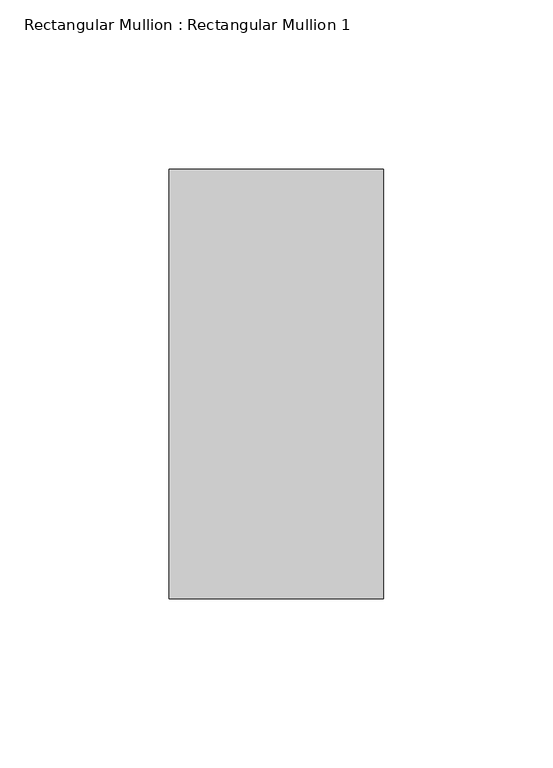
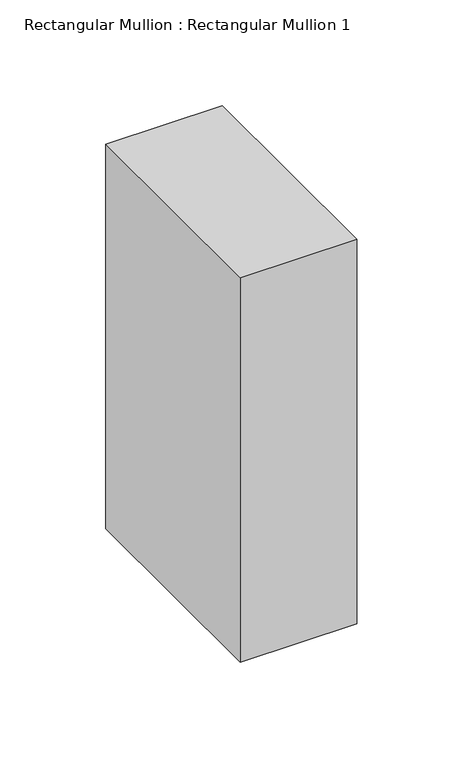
"""IFC4 building model written with IfcOpenShell, lengths in millimetres: member geometry, Rectangular Mullion : Rectangular Mullion 1."""

import ifcopenshell
import ifcopenshell.guid

model = None  # the IFC model being written
_history = None  # IfcOwnerHistory: only IFC2X3 demands one
_inside = {}  # id of a spatial element -> (the spatial element, [elements in it])
_under = {}  # id of a project, library or spatial element -> (it, [spatial elements below it])
_declared = {}  # id of a project -> (the project, [libraries it declares])
_typed = {}  # id of a type object -> (the type object, [elements of that type])
_made_of = {}  # id of a material, layer set ... -> (it, [elements and type objects made of it])


def new_model(schema):
    """Start an empty IFC model of exactly this schema.

    Asked for "IFC4X3", IfcOpenShell would pick the latest addendum, in which some entities
    have other attributes; the version numbers below select the first issue.
    IFC2X3 requires an IfcOwnerHistory on every rooted entity: one is made here for all.
    """
    global model, _history
    if schema == "IFC4X3":
        model = ifcopenshell.file(schema_version=(4, 3, 0, 0))
    else:
        model = ifcopenshell.file(schema=schema)
    _inside.clear()
    _under.clear()
    _declared.clear()
    _typed.clear()
    _made_of.clear()
    _history = None
    if model.schema == "IFC2X3":
        org = make("IfcOrganization", Name="unknown")
        user = make(
            "IfcPersonAndOrganization",
            ThePerson=make("IfcPerson", FamilyName="unknown"),
            TheOrganization=org,
        )
        app = make(
            "IfcApplication",
            ApplicationDeveloper=org,
            Version="unknown",
            ApplicationFullName="unknown",
            ApplicationIdentifier="unknown",
        )
        _history = make(
            "IfcOwnerHistory",
            OwningUser=user,
            OwningApplication=app,
            ChangeAction="ADDED",
            CreationDate=0,
        )
    return model


def make(cls, **values):
    """One entity of the class cls with the attributes given. An attribute that is None is left unset."""
    return model.create_entity(
        cls, **{name: value for name, value in values.items() if value is not None}
    )


def rooted(cls, **values):
    """An entity with a GlobalId (a new one), such as an element, a storey or a relation."""
    return make(cls, GlobalId=ifcopenshell.guid.new(), OwnerHistory=_history, **values)


def si_unit(unit_type, name, prefix=None):
    """IfcSIUnit, for example si_unit("LENGTHUNIT", "METRE", prefix="MILLI")."""
    return make("IfcSIUnit", UnitType=unit_type, Prefix=prefix, Name=name)


def assignment(units):
    """IfcUnitAssignment: the units of a project."""
    return None if units is None else make("IfcUnitAssignment", Units=units)


def point(xyz):
    """IfcCartesianPoint."""
    return None if xyz is None else make("IfcCartesianPoint", Coordinates=xyz)


def direction(xyz):
    """IfcDirection."""
    return None if xyz is None else make("IfcDirection", DirectionRatios=xyz)


def frame(location, z_axis=None, x_axis=None):
    """IfcAxis2Placement3D, a coordinate frame: its origin and axes. An axis left out is left unset."""
    return make(
        "IfcAxis2Placement3D",
        Location=point(location),
        Axis=direction(z_axis),
        RefDirection=direction(x_axis),
    )


def origin():
    """The frame at (0, 0, 0) with its axes left unset."""
    return frame((0.0, 0.0, 0.0))


def place(relative_to, where):
    """IfcLocalPlacement: puts the frame where relative to a parent placement (None: the world)."""
    return make(
        "IfcLocalPlacement", PlacementRelTo=relative_to, RelativePlacement=where
    )


def context(
    kind, dimensions, precision=None, world=None, true_north=None, identifier=None
):
    """IfcGeometricRepresentationContext, for example the 3D "Model" context."""
    return make(
        "IfcGeometricRepresentationContext",
        ContextIdentifier=identifier,
        ContextType=kind,
        CoordinateSpaceDimension=dimensions,
        Precision=precision,
        WorldCoordinateSystem=world,
        TrueNorth=true_north,
    )


def project(units=None, contexts=None):
    """IfcProject with its units and contexts."""
    return rooted(
        "IfcProject",
        Name="project",
        RepresentationContexts=contexts,
        UnitsInContext=assignment(units),
    )


def spatial(cls, under=None, at=None, **own):
    """A site, building, storey or space (cls), placed at a placement, below another one or the project."""
    s = rooted(cls, ObjectPlacement=at, **own)
    if under is not None:
        _under.setdefault(under.id(), (under, []))[1].append(s)
    return s


def polyline(points):
    """IfcPolyline through the points."""
    return make("IfcPolyline", Points=[point(p) for p in points])


def outline(outer, holes=None, kind="AREA"):
    """IfcArbitraryClosedProfileDef: a profile drawn as a closed curve; with holes, ...WithVoids."""
    if holes is None:
        return make("IfcArbitraryClosedProfileDef", ProfileType=kind, OuterCurve=outer)
    return make(
        "IfcArbitraryProfileDefWithVoids",
        ProfileType=kind,
        OuterCurve=outer,
        InnerCurves=holes,
    )


def extrude(swept, where, along, depth):
    """IfcExtrudedAreaSolid: the profile swept, set in the frame where, extruded along a direction by depth."""
    return make(
        "IfcExtrudedAreaSolid",
        SweptArea=swept,
        Position=where,
        ExtrudedDirection=direction(along),
        Depth=depth,
    )


def shape(context_of_items, identifier, shape_type, items):
    """IfcShapeRepresentation: the items that make up one representation, for example the "Body"."""
    return make(
        "IfcShapeRepresentation",
        ContextOfItems=context_of_items,
        RepresentationIdentifier=identifier,
        RepresentationType=shape_type,
        Items=items,
    )


def source(mapping_origin, context_of_items, identifier, shape_type, items):
    """IfcRepresentationMap: a shape defined once, which mapped items show again and again."""
    return make(
        "IfcRepresentationMap",
        MappingOrigin=mapping_origin,
        MappedRepresentation=shape(context_of_items, identifier, shape_type, items),
    )


def transform(
    local_origin,
    x_axis=None,
    y_axis=None,
    z_axis=None,
    scale=None,
    scale2=None,
    scale3=None,
    uniform=True,
):
    """IfcCartesianTransformationOperator3D, or its non-uniform kind. x_axis, y_axis, z_axis: its Axis1, 2, 3."""
    if uniform:
        return make(
            "IfcCartesianTransformationOperator3D",
            Axis1=direction(x_axis),
            Axis2=direction(y_axis),
            LocalOrigin=point(local_origin),
            Scale=scale,
            Axis3=direction(z_axis),
        )
    return make(
        "IfcCartesianTransformationOperator3DnonUniform",
        Axis1=direction(x_axis),
        Axis2=direction(y_axis),
        LocalOrigin=point(local_origin),
        Scale=scale,
        Axis3=direction(z_axis),
        Scale2=scale2,
        Scale3=scale3,
    )


def mapped(mapping_source, mapping_target):
    """IfcMappedItem: shows the shape of a source again, moved by a transform."""
    return make(
        "IfcMappedItem", MappingSource=mapping_source, MappingTarget=mapping_target
    )


def made_of(thing, what):
    """Note that an element or type object is made of a material, layer set ...; save() writes the relation."""
    if what is not None:
        _made_of.setdefault(what.id(), (what, []))[1].append(thing)
    return thing


def element(
    cls,
    number,
    at=None,
    inside=None,
    cuts=None,
    type_object=None,
    material=None,
    context=None,
    identifier="Body",
    shape_type=None,
    held_by="IfcProductDefinitionShape",
    body=None,
    shapes=None,
    **own,
):
    """One element of the class cls, such as IfcWall. Its Tag is "e" and its number.

    at: its placement. inside: the storey or other place that contains it. cuts: it is an
    opening in that element (IfcRelVoidsElement). A single representation is given by context,
    identifier, shape_type and body (its items); several are given by shapes. held_by: the class
    of the entity that holds the representations. save() writes the other relations.
    """
    e = rooted(cls, Tag="e%d" % number, ObjectPlacement=at, **own)
    if body is not None:
        shapes = [shape(context, identifier, shape_type, body)]
    if shapes is not None:
        e.Representation = make(held_by, Representations=shapes)
    if inside is not None:
        _inside.setdefault(inside.id(), (inside, []))[1].append(e)
    if cuts is not None:
        rooted(
            "IfcRelVoidsElement", RelatingBuildingElement=cuts, RelatedOpeningElement=e
        )
    if type_object is not None:
        _typed.setdefault(type_object.id(), (type_object, []))[1].append(e)
    return made_of(e, material)


def aggregate(whole, parts):
    """IfcRelAggregates: a whole, such as a stair, and the parts it consists of."""
    return rooted("IfcRelAggregates", RelatingObject=whole, RelatedObjects=parts)


def save(model, path):
    """Write the relations noted so far, then the file.

    IfcRelAggregates (storeys below a building ...), IfcRelContainedInSpatialStructure (elements
    in a storey), IfcRelDefinesByType, IfcRelAssociatesMaterial and IfcRelDeclares: one each for
    every whole, place, type object, material and project.
    """
    for whole, parts in _under.values():
        aggregate(whole, parts)
    for where, things in _inside.values():
        rooted(
            "IfcRelContainedInSpatialStructure",
            RelatedElements=things,
            RelatingStructure=where,
        )
    for kind, things in _typed.values():
        rooted("IfcRelDefinesByType", RelatedObjects=things, RelatingType=kind)
    for what, things in _made_of.values():
        rooted("IfcRelAssociatesMaterial", RelatedObjects=things, RelatingMaterial=what)
    for by, libraries in _declared.values():
        rooted("IfcRelDeclares", RelatingContext=by, RelatedDefinitions=libraries)
    model.write(path)


def rectangular_mullion_rectangular_mullion_1_d1eb19d3(model_context):
    return source(origin(), model_context, "Body", "SweptSolid", [
        extrude(outline(polyline([(31.75, 63.5), (31.75, -63.5), (-31.75, -63.5), (-31.75, 63.5), (31.75, 63.5)])), frame((0.0, 0.0, -221.495196), z_axis=(0.0, 0.0, 1.0), x_axis=(1.0, 0.0, 0.0)), (0.0, 0.0, 1.0), 221.495196),
    ])


if __name__ == "__main__":
    model = new_model("IFC4")
    model_context = context("Model", 3, world=origin())
    ifc_project = project(units=[si_unit("LENGTHUNIT", "METRE", prefix="MILLI")], contexts=[model_context])
    site = spatial("IfcSite", under=ifc_project)
    building = spatial("IfcBuilding", under=site)
    placement = place(None, origin())
    rectangular_mullion_rectangular_mullion_1_shape = rectangular_mullion_rectangular_mullion_1_d1eb19d3(model_context)
    element("IfcMember", 1, ObjectType="Rectangular Mullion : Rectangular Mullion 1", at=placement, inside=building, context=model_context, shape_type="MappedRepresentation", body=[
        mapped(rectangular_mullion_rectangular_mullion_1_shape, transform((0.0, 0.0, 0.0), x_axis=(1.0, 0.0, 0.0), y_axis=(0.0, 1.0, 0.0), z_axis=(0.0, 0.0, 1.0))),
    ])
    save(model, "model.ifc")
